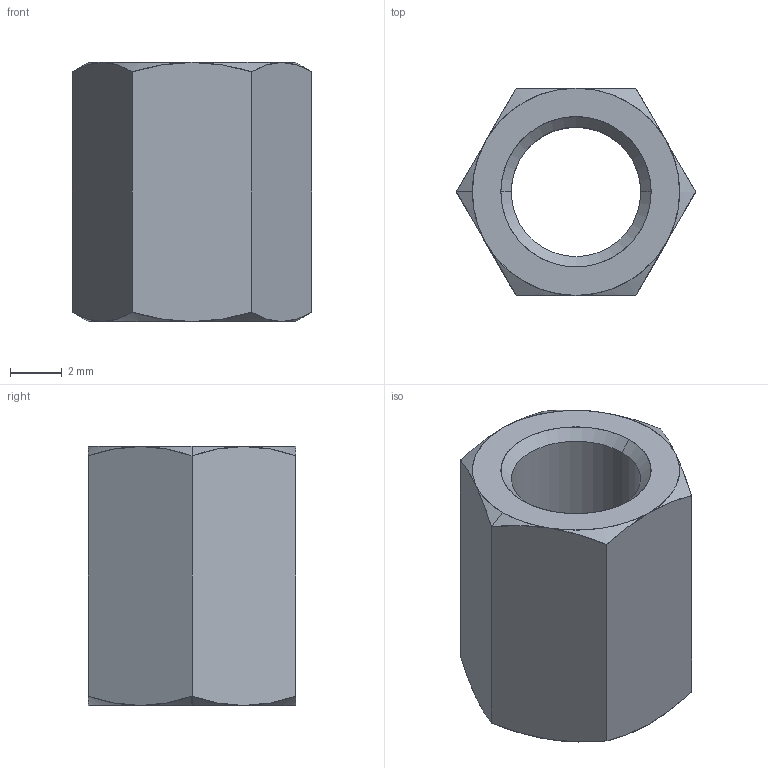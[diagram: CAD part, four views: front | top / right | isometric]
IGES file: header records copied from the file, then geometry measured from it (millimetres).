
Start section: SolidWorks IGES file using analytic representation for surfaces
Global section: file name: C:\Users\ianosborn\Desktop\N0503.NP_v2\N0503.NP_v2_20250227_IGES\N0503.050-010-NP.igs; native system: SolidWorks 2019; preprocessor: SolidWorks 2019; author: IanOsborn; date: 250227.144355; units: millimetre
Bounding box: 9.24 x 8 x 10 mm (x, y, z)
Surface area: 493.6 mm2 (no closed solid volume)
Topology: 0 solids, 0 shells, 28 faces, 286 edges, 286 vertices
Faces by surface type: revolution 20, bspline 8
